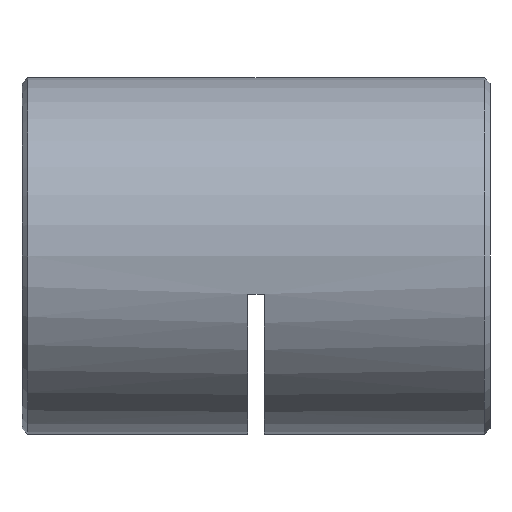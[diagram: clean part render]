
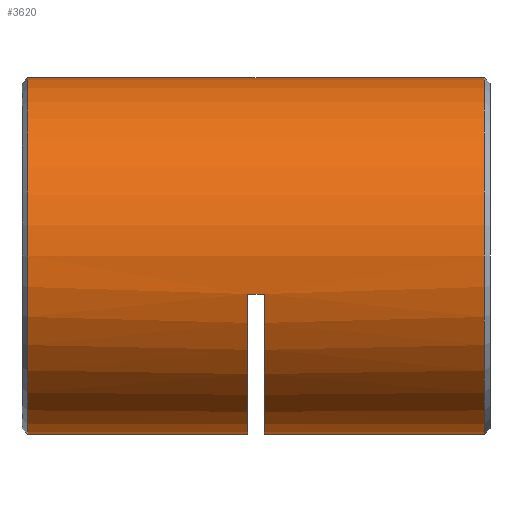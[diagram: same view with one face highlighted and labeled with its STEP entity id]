
A CAD part, left-side view. The second image highlights one B-rep face of the part: STEP entity #3620.
In plain terms, the highlighted cylindrical face has radius 16 mm (diameter 32 mm), a partial arc.
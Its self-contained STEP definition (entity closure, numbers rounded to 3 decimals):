
#25 = DIRECTION ( 'NONE',  ( 0., -1., 0. ) ) ;
#56 = AXIS2_PLACEMENT_3D ( 'NONE', #1940, #3356, #1454 ) ;
#138 = DIRECTION ( 'NONE',  ( 0., -1., 0. ) ) ;
#250 = CARTESIAN_POINT ( 'NONE',  ( 0., 42.5, -16. ) ) ;
#268 = VERTEX_POINT ( 'NONE', #2233 ) ;
#307 = ORIENTED_EDGE ( 'NONE', *, *, #2284, .T. ) ;
#474 = VERTEX_POINT ( 'NONE', #3315 ) ;
#594 = CIRCLE ( 'NONE', #5494, 16. ) ;
#596 = ORIENTED_EDGE ( 'NONE', *, *, #3945, .T. ) ;
#682 = CARTESIAN_POINT ( 'NONE',  ( -15.632, 20.5, -3.413 ) ) ;
#722 = DIRECTION ( 'NONE',  ( 0., 0., -1. ) ) ;
#736 = CARTESIAN_POINT ( 'NONE',  ( 0., 42.5, 16. ) ) ;
#802 = CARTESIAN_POINT ( 'NONE',  ( 0., 22., -16. ) ) ;
#910 = ORIENTED_EDGE ( 'NONE', *, *, #4039, .F. ) ;
#1192 = CYLINDRICAL_SURFACE ( 'NONE', #2122, 16. ) ;
#1453 = CARTESIAN_POINT ( 'NONE',  ( 0., 41.75, 16. ) ) ;
#1454 = DIRECTION ( 'NONE',  ( 0., 0., -1. ) ) ;
#1648 = VECTOR ( 'NONE', #4505, 1000. ) ;
#1756 = VERTEX_POINT ( 'NONE', #5602 ) ;
#1816 = FACE_OUTER_BOUND ( 'NONE', #6395, .T. ) ;
#1825 = DIRECTION ( 'NONE',  ( 0., -1., 0. ) ) ;
#1940 = CARTESIAN_POINT ( 'NONE',  ( 0., 41.75, 0. ) ) ;
#2040 = CARTESIAN_POINT ( 'NONE',  ( 0., 22., 0. ) ) ;
#2122 = AXIS2_PLACEMENT_3D ( 'NONE', #2685, #138, #722 ) ;
#2233 = CARTESIAN_POINT ( 'NONE',  ( 0., 20.5, -16. ) ) ;
#2248 = AXIS2_PLACEMENT_3D ( 'NONE', #2040, #25, #3949 ) ;
#2284 = EDGE_CURVE ( 'NONE', #4830, #5077, #594, .T. ) ;
#2320 = EDGE_CURVE ( 'NONE', #5615, #1756, #5658, .T. ) ;
#2396 = ORIENTED_EDGE ( 'NONE', *, *, #3008, .F. ) ;
#2509 = CARTESIAN_POINT ( 'NONE',  ( 0., 42.5, -16. ) ) ;
#2678 = CARTESIAN_POINT ( 'NONE',  ( 0., 0.75, -16. ) ) ;
#2685 = CARTESIAN_POINT ( 'NONE',  ( 0., 42.5, 0. ) ) ;
#2897 = LINE ( 'NONE', #2509, #1648 ) ;
#2931 = AXIS2_PLACEMENT_3D ( 'NONE', #5330, #6324, #3397 ) ;
#2935 = VERTEX_POINT ( 'NONE', #682 ) ;
#3008 = EDGE_CURVE ( 'NONE', #474, #3788, #4262, .T. ) ;
#3029 = DIRECTION ( 'NONE',  ( 0., 1., 0. ) ) ;
#3084 = CARTESIAN_POINT ( 'NONE',  ( 0., 0.75, 0. ) ) ;
#3140 = DIRECTION ( 'NONE',  ( 0., -1., 0. ) ) ;
#3315 = CARTESIAN_POINT ( 'NONE',  ( -15.632, 22., -3.413 ) ) ;
#3325 = DIRECTION ( 'NONE',  ( 0., -1., 0. ) ) ;
#3356 = DIRECTION ( 'NONE',  ( 0., -1., 0. ) ) ;
#3397 = DIRECTION ( 'NONE',  ( 0., 0., -1. ) ) ;
#3580 = VECTOR ( 'NONE', #3325, 1000. ) ;
#3620 = ADVANCED_FACE ( 'NONE', ( #1816 ), #1192, .T. ) ;
#3737 = LINE ( 'NONE', #5687, #3580 ) ;
#3788 = VERTEX_POINT ( 'NONE', #802 ) ;
#3945 = EDGE_CURVE ( 'NONE', #1756, #3788, #2897, .T. ) ;
#3949 = DIRECTION ( 'NONE',  ( 0., 0., -1. ) ) ;
#3978 = ORIENTED_EDGE ( 'NONE', *, *, #4028, .T. ) ;
#4028 = EDGE_CURVE ( 'NONE', #268, #4830, #5952, .T. ) ;
#4039 = EDGE_CURVE ( 'NONE', #5615, #5077, #4382, .T. ) ;
#4262 = CIRCLE ( 'NONE', #2248, 16. ) ;
#4331 = EDGE_CURVE ( 'NONE', #474, #2935, #3737, .T. ) ;
#4349 = CARTESIAN_POINT ( 'NONE',  ( 0., 0.75, 16. ) ) ;
#4382 = LINE ( 'NONE', #736, #5865 ) ;
#4505 = DIRECTION ( 'NONE',  ( 0., -1., 0. ) ) ;
#4628 = VECTOR ( 'NONE', #3140, 1000. ) ;
#4830 = VERTEX_POINT ( 'NONE', #2678 ) ;
#4931 = DIRECTION ( 'NONE',  ( 0., 0., 1. ) ) ;
#4938 = CIRCLE ( 'NONE', #2931, 16. ) ;
#5077 = VERTEX_POINT ( 'NONE', #4349 ) ;
#5145 = ORIENTED_EDGE ( 'NONE', *, *, #6248, .T. ) ;
#5330 = CARTESIAN_POINT ( 'NONE',  ( 0., 20.5, 0. ) ) ;
#5494 = AXIS2_PLACEMENT_3D ( 'NONE', #3084, #3029, #4931 ) ;
#5602 = CARTESIAN_POINT ( 'NONE',  ( 0., 41.75, -16. ) ) ;
#5615 = VERTEX_POINT ( 'NONE', #1453 ) ;
#5658 = CIRCLE ( 'NONE', #56, 16. ) ;
#5685 = ORIENTED_EDGE ( 'NONE', *, *, #2320, .T. ) ;
#5687 = CARTESIAN_POINT ( 'NONE',  ( -15.632, 21.25, -3.413 ) ) ;
#5760 = ORIENTED_EDGE ( 'NONE', *, *, #4331, .T. ) ;
#5865 = VECTOR ( 'NONE', #1825, 1000. ) ;
#5952 = LINE ( 'NONE', #250, #4628 ) ;
#6248 = EDGE_CURVE ( 'NONE', #2935, #268, #4938, .T. ) ;
#6324 = DIRECTION ( 'NONE',  ( 0., -1., 0. ) ) ;
#6395 = EDGE_LOOP ( 'NONE', ( #910, #5685, #596, #2396, #5760, #5145, #3978, #307 ) ) ;
